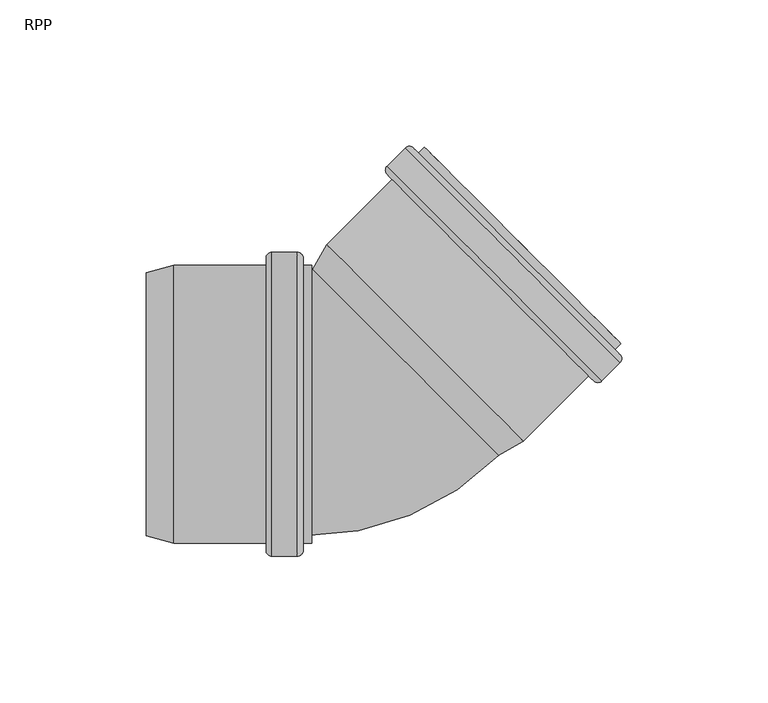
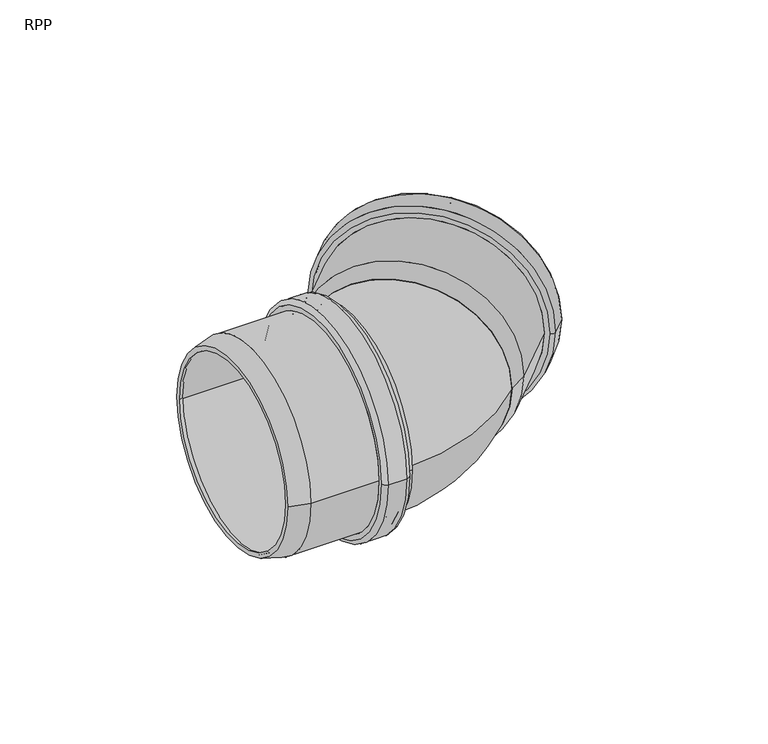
"""IFC4 building model written with IfcOpenShell, lengths in millimetres: pipe fitting geometry, RAUPIANO PLUS Bend : RPP."""

from ifc_helpers import new_model, si_unit, point, frame, origin, place, context, project, spatial, polyline, circle_curve, ellipse_curve, trimmed, source, transform, mapped, element, save
from ifc_brep_helpers import plane_surface, cylinder_surface, revolved_surface, advanced_brep


def rpp_5e2e64cf(model_context):
    return source(origin(), model_context, "Body", "AdvancedBrep", [
        advanced_brep(
        [(-31.1964646, -45.3, 0.0), (-31.1964646, 45.3, 0.0), (-64.676702, 45.3, 0.0), (-64.676702, -45.3, 0.0), (-30.6964646, -49.7, 0.0), (-30.6964646, 49.7, 0.0), (-31.1964646, 49.2, 0.0), (-31.1964646, -49.2, 0.0), (-23.3964646, -49.7, 0.0), (-23.3964646, 49.7, 0.0), (-22.8964646, -49.2, 0.0), (-22.8964646, 49.2, 0.0), (-17.7964646, -45.3, 0.0), (-17.7964646, 45.3, 0.0), (-22.8964646, 45.3, 0.0), (-22.8964646, -45.3, 0.0), (-20.6964646, -47.5, 0.0), (-20.6964646, 47.5, 0.0), (-17.7964646, 47.5, 0.0), (-17.7964646, -47.5, 0.0), (-22.6964646, -51.9, 0.0), (-22.6964646, 51.9, 0.0), (-20.6964646, 49.9, 0.0), (-20.6964646, -49.9, 0.0), (-31.3964646, -51.9, 0.0), (-31.3964646, 51.9, 0.0), (-33.3964646, -49.9, 0.0), (-33.3964646, 49.9, 0.0), (-64.9663375, -47.5, 0.0), (-64.9663375, 47.5, 0.0), (-33.3964646, 47.5, 0.0), (-33.3964646, -47.5, 0.0), (-74.2964646, -45.0, 0.0), (-74.2964646, 45.0, 0.0), (-74.2964646, 42.7223924, 0.0), (-74.2964646, -42.7223924, 0.0)],
        [
            (0, 1, circle_curve(frame((-31.1964646, 0.0, 0.0), z_axis=(1.0, 0.0, 0.0), x_axis=(0.0, 1.0, 0.0)), 45.3)),
            (1, 2),
            (2, 3, circle_curve(frame((-64.676702, 0.0, 0.0), z_axis=(-1.0, 0.0, 0.0), x_axis=(0.0, 1.0, 0.0)), 45.3)),
            (3, 0),
            (4, 5, circle_curve(frame((-30.6964646, 0.0, 0.0), z_axis=(1.0, 0.0, 0.0), x_axis=(0.0, 1.0, 0.0)), 49.7)),
            (5, 6, circle_curve(frame((-30.6964646, 49.2, 0.0), z_axis=(0.0, 0.0, 1.0), x_axis=(0.0, -1.0, 0.0)), 0.5)),
            (6, 7, circle_curve(frame((-31.1964646, 0.0, 0.0), z_axis=(-1.0, 0.0, 0.0), x_axis=(0.0, 1.0, 0.0)), 49.2)),
            (7, 4, circle_curve(frame((-30.6964646, -49.2, 0.0), z_axis=(0.0, 0.0, 1.0), x_axis=(0.0, 1.0, 0.0)), 0.5)),
            (8, 9, circle_curve(frame((-23.3964646, 0.0, 0.0), z_axis=(1.0, 0.0, 0.0), x_axis=(0.0, 1.0, 0.0)), 49.7)),
            (9, 5),
            (4, 8),
            (10, 11, circle_curve(frame((-22.8964646, 0.0, 0.0), z_axis=(1.0, 0.0, 0.0), x_axis=(0.0, 1.0, 0.0)), 49.2)),
            (11, 9, circle_curve(frame((-23.3964646, 49.2, 0.0), z_axis=(0.0, 0.0, 1.0), x_axis=(0.0, -1.0, 0.0)), 0.5)),
            (8, 10, circle_curve(frame((-23.3964646, -49.2, 0.0), z_axis=(0.0, 0.0, 1.0), x_axis=(0.0, 1.0, 0.0)), 0.5)),
            (12, 13, circle_curve(frame((-17.7964646, 0.0, 0.0), z_axis=(1.0, 0.0, 0.0), x_axis=(0.0, 1.0, 0.0)), 45.3)),
            (13, 14),
            (14, 15, circle_curve(frame((-22.8964646, 0.0, 0.0), z_axis=(-1.0, 0.0, 0.0), x_axis=(0.0, 1.0, 0.0)), 45.3)),
            (15, 12),
            (16, 17, circle_curve(frame((-20.6964646, 0.0, 0.0), z_axis=(1.0, 0.0, 0.0), x_axis=(0.0, 1.0, 0.0)), 47.5)),
            (17, 18),
            (18, 19, circle_curve(frame((-17.7964646, 0.0, 0.0), z_axis=(-1.0, 0.0, 0.0), x_axis=(0.0, 1.0, 0.0)), 47.5)),
            (19, 16),
            (20, 21, circle_curve(frame((-22.6964646, 0.0, 0.0), z_axis=(1.0, 0.0, 0.0), x_axis=(0.0, 1.0, 0.0)), 51.9)),
            (21, 22, circle_curve(frame((-22.6964646, 49.9, 0.0), z_axis=(0.0, 0.0, -1.0), x_axis=(0.0, -1.0, 0.0)), 2.0)),
            (22, 23, circle_curve(frame((-20.6964646, 0.0, 0.0), z_axis=(-1.0, 0.0, 0.0), x_axis=(0.0, 1.0, 0.0)), 49.9)),
            (23, 20, circle_curve(frame((-22.6964646, -49.9, 0.0), z_axis=(0.0, 0.0, -1.0), x_axis=(0.0, 1.0, 0.0)), 2.0)),
            (24, 25, circle_curve(frame((-31.3964646, 0.0, 0.0), z_axis=(1.0, 0.0, 0.0), x_axis=(0.0, 1.0, 0.0)), 51.9)),
            (25, 21),
            (20, 24),
            (26, 27, circle_curve(frame((-33.3964646, 0.0, 0.0), z_axis=(1.0, 0.0, 0.0), x_axis=(0.0, 1.0, 0.0)), 49.9)),
            (27, 25, circle_curve(frame((-31.3964646, 49.9, 0.0), z_axis=(0.0, 0.0, -1.0), x_axis=(0.0, -1.0, 0.0)), 2.0)),
            (24, 26, circle_curve(frame((-31.3964646, -49.9, 0.0), z_axis=(0.0, 0.0, -1.0), x_axis=(0.0, 1.0, 0.0)), 2.0)),
            (28, 29, circle_curve(frame((-64.9663375, 0.0, 0.0), z_axis=(1.0, 0.0, 0.0), x_axis=(0.0, 1.0, 0.0)), 47.5)),
            (29, 30),
            (30, 31, circle_curve(frame((-33.3964646, 0.0, 0.0), z_axis=(-1.0, 0.0, 0.0), x_axis=(0.0, 1.0, 0.0)), 47.5)),
            (31, 28),
            (32, 33, circle_curve(frame((-74.2964646, 0.0, 0.0), z_axis=(1.0, 0.0, 0.0), x_axis=(0.0, 1.0, 0.0)), 45.0)),
            (33, 29),
            (28, 32),
            (2, 34),
            (34, 35, circle_curve(frame((-74.2964646, 0.0, 0.0), z_axis=(-1.0, 0.0, 0.0), x_axis=(0.0, 1.0, 0.0)), 42.7223924)),
            (35, 3),
            (1, 0, circle_curve(frame((-31.1964646, 0.0, 0.0), z_axis=(1.0, 0.0, 0.0), x_axis=(0.0, -1.0, 0.0)), 45.3)),
            (3, 2, circle_curve(frame((-64.676702, 0.0, 0.0), z_axis=(-1.0, 0.0, 0.0), x_axis=(0.0, -1.0, 0.0)), 45.3)),
            (6, 7, circle_curve(frame((-31.1964646, 0.0, 0.0), z_axis=(1.0, 0.0, 0.0), x_axis=(0.0, -1.0, 0.0)), 49.2)),
            (5, 4, circle_curve(frame((-30.6964646, 0.0, 0.0), z_axis=(1.0, 0.0, 0.0), x_axis=(0.0, -1.0, 0.0)), 49.7)),
            (9, 8, circle_curve(frame((-23.3964646, 0.0, 0.0), z_axis=(1.0, 0.0, 0.0), x_axis=(0.0, -1.0, 0.0)), 49.7)),
            (11, 10, circle_curve(frame((-22.8964646, 0.0, 0.0), z_axis=(1.0, 0.0, 0.0), x_axis=(0.0, -1.0, 0.0)), 49.2)),
            (14, 15, circle_curve(frame((-22.8964646, 0.0, 0.0), z_axis=(1.0, 0.0, 0.0), x_axis=(0.0, -1.0, 0.0)), 45.3)),
            (13, 12, circle_curve(frame((-17.7964646, 0.0, 0.0), z_axis=(1.0, 0.0, 0.0), x_axis=(0.0, -1.0, 0.0)), 45.3)),
            (18, 19, circle_curve(frame((-17.7964646, 0.0, 0.0), z_axis=(1.0, 0.0, 0.0), x_axis=(0.0, -1.0, 0.0)), 47.5)),
            (17, 16, circle_curve(frame((-20.6964646, 0.0, 0.0), z_axis=(1.0, 0.0, 0.0), x_axis=(0.0, -1.0, 0.0)), 47.5)),
            (22, 23, circle_curve(frame((-20.6964646, 0.0, 0.0), z_axis=(1.0, 0.0, 0.0), x_axis=(0.0, -1.0, 0.0)), 49.9)),
            (21, 20, circle_curve(frame((-22.6964646, 0.0, 0.0), z_axis=(1.0, 0.0, 0.0), x_axis=(0.0, -1.0, 0.0)), 51.9)),
            (25, 24, circle_curve(frame((-31.3964646, 0.0, 0.0), z_axis=(1.0, 0.0, 0.0), x_axis=(0.0, -1.0, 0.0)), 51.9)),
            (27, 26, circle_curve(frame((-33.3964646, 0.0, 0.0), z_axis=(1.0, 0.0, 0.0), x_axis=(0.0, -1.0, 0.0)), 49.9)),
            (30, 31, circle_curve(frame((-33.3964646, 0.0, 0.0), z_axis=(1.0, 0.0, 0.0), x_axis=(0.0, -1.0, 0.0)), 47.5)),
            (29, 28, circle_curve(frame((-64.9663375, 0.0, 0.0), z_axis=(1.0, 0.0, 0.0), x_axis=(0.0, -1.0, 0.0)), 47.5)),
            (33, 32, circle_curve(frame((-74.2964646, 0.0, 0.0), z_axis=(1.0, 0.0, 0.0), x_axis=(0.0, -1.0, 0.0)), 45.0)),
            (34, 35, circle_curve(frame((-74.2964646, 0.0, 0.0), z_axis=(1.0, 0.0, 0.0), x_axis=(0.0, -1.0, 0.0)), 42.7223924)),
        ],
        [
            revolved_surface(polyline([(-64.676702, 45.3, 0.0), (-31.1964646, 45.3, 0.0)]), (-74.2964646, 0.0, 0.0), (-1.0, 0.0, 0.0)),
            revolved_surface(trimmed(ellipse_curve(frame((-30.6964646, 49.2, 0.0), z_axis=(0.0, 0.0, -1.0), x_axis=(0.0, -1.0, 0.0)), 0.5, 0.5), [point((-31.1964646, 49.2, 0.0))], [point((-30.6964646, 49.7, 0.0))], True, "CARTESIAN"), (-74.2964646, 0.0, 0.0), (-1.0, 0.0, 0.0)),
            revolved_surface(polyline([(-30.6964646, 49.7, 0.0), (-23.3964646, 49.7, 0.0)]), (-74.2964646, 0.0, 0.0), (-1.0, 0.0, 0.0)),
            revolved_surface(trimmed(ellipse_curve(frame((-23.3964646, 49.2, 0.0), z_axis=(0.0, 0.0, -1.0), x_axis=(0.0, -1.0, 0.0)), 0.5, 0.5), [point((-23.3964646, 49.7, 0.0))], [point((-22.8964646, 49.2, 0.0))], True, "CARTESIAN"), (-74.2964646, 0.0, 0.0), (-1.0, 0.0, 0.0)),
            revolved_surface(polyline([(-22.8964646, 45.3, 0.0), (-17.7964646, 45.3, 0.0)]), (-74.2964646, 0.0, 0.0), (-1.0, 0.0, 0.0)),
            cylinder_surface(frame((-74.2964646, 0.0, 0.0), z_axis=(-1.0, 0.0, 0.0), x_axis=(0.0, 1.0, 0.0)), 47.5),
            revolved_surface(trimmed(ellipse_curve(frame((-22.6964646, 49.9, 0.0), z_axis=(0.0, 0.0, 1.0), x_axis=(0.0, -1.0, 0.0)), 2.0, 2.0), [point((-20.6964646, 49.9, 0.0))], [point((-22.6964646, 51.9, 0.0))], True, "CARTESIAN"), (-74.2964646, 0.0, 0.0), (-1.0, 0.0, 0.0)),
            cylinder_surface(frame((-74.2964646, 0.0, 0.0), z_axis=(-1.0, 0.0, 0.0), x_axis=(0.0, 1.0, 0.0)), 51.9),
            revolved_surface(trimmed(ellipse_curve(frame((-31.3964646, 49.9, 0.0), z_axis=(0.0, 0.0, 1.0), x_axis=(0.0, -1.0, 0.0)), 2.0, 2.0), [point((-31.3964646, 51.9, 0.0))], [point((-33.3964646, 49.9, 0.0))], True, "CARTESIAN"), (-74.2964646, 0.0, 0.0), (-1.0, 0.0, 0.0)),
            revolved_surface(polyline([(-64.9663375, 47.5, 0.0), (-74.2964646, 45.0, 0.0)]), (-74.2964646, 0.0, 0.0), (-1.0, 0.0, 0.0)),
            revolved_surface(polyline([(-74.2964646, 42.7223924, 0.0), (-64.676702, 45.3, 0.0)]), (-74.2964646, 0.0, 0.0), (-1.0, 0.0, 0.0)),
            revolved_surface(polyline([(-64.676702, -45.3, 0.0), (-31.1964646, -45.3, 0.0)]), (-74.2964646, 0.0, 0.0), (-1.0, 0.0, 0.0)),
            plane_surface(frame((-31.1964646, 0.0, 0.0), z_axis=(1.0, 0.0, 0.0), x_axis=(0.0, -1.0, 0.0))),
            revolved_surface(trimmed(ellipse_curve(frame((-30.6964646, -49.2, 0.0), z_axis=(0.0, 0.0, 1.0), x_axis=(0.0, 1.0, 0.0)), 0.5, 0.5), [point((-31.1964646, -49.2, 0.0))], [point((-30.6964646, -49.7, 0.0))], True, "CARTESIAN"), (-74.2964646, 0.0, 0.0), (-1.0, 0.0, 0.0)),
            revolved_surface(polyline([(-30.6964646, -49.7, 0.0), (-23.3964646, -49.7, 0.0)]), (-74.2964646, 0.0, 0.0), (-1.0, 0.0, 0.0)),
            revolved_surface(trimmed(ellipse_curve(frame((-23.3964646, -49.2, 0.0), z_axis=(0.0, 0.0, 1.0), x_axis=(0.0, 1.0, 0.0)), 0.5, 0.5), [point((-23.3964646, -49.7, 0.0))], [point((-22.8964646, -49.2, 0.0))], True, "CARTESIAN"), (-74.2964646, 0.0, 0.0), (-1.0, 0.0, 0.0)),
            plane_surface(frame((-22.8964646, 0.0, 0.0), z_axis=(-1.0, 0.0, 0.0), x_axis=(0.0, -1.0, 0.0))),
            revolved_surface(polyline([(-22.8964646, -45.3, 0.0), (-17.7964646, -45.3, 0.0)]), (-74.2964646, 0.0, 0.0), (-1.0, 0.0, 0.0)),
            plane_surface(frame((-17.7964646, 0.0, 0.0), z_axis=(1.0, 0.0, 0.0), x_axis=(0.0, -1.0, 0.0))),
            cylinder_surface(frame((-74.2964646, 0.0, 0.0), z_axis=(-1.0, 0.0, 0.0), x_axis=(0.0, -1.0, 0.0)), 47.5),
            plane_surface(frame((-20.6964646, 0.0, 0.0), z_axis=(1.0, 0.0, 0.0), x_axis=(0.0, -1.0, 0.0))),
            revolved_surface(trimmed(ellipse_curve(frame((-22.6964646, -49.9, 0.0), z_axis=(0.0, 0.0, -1.0), x_axis=(0.0, 1.0, 0.0)), 2.0, 2.0), [point((-20.6964646, -49.9, 0.0))], [point((-22.6964646, -51.9, 0.0))], True, "CARTESIAN"), (-74.2964646, 0.0, 0.0), (-1.0, 0.0, 0.0)),
            cylinder_surface(frame((-74.2964646, 0.0, 0.0), z_axis=(-1.0, 0.0, 0.0), x_axis=(0.0, -1.0, 0.0)), 51.9),
            revolved_surface(trimmed(ellipse_curve(frame((-31.3964646, -49.9, 0.0), z_axis=(0.0, 0.0, -1.0), x_axis=(0.0, 1.0, 0.0)), 2.0, 2.0), [point((-31.3964646, -51.9, 0.0))], [point((-33.3964646, -49.9, 0.0))], True, "CARTESIAN"), (-74.2964646, 0.0, 0.0), (-1.0, 0.0, 0.0)),
            plane_surface(frame((-33.3964646, 0.0, 0.0), z_axis=(-1.0, 0.0, 0.0), x_axis=(0.0, -1.0, 0.0))),
            revolved_surface(polyline([(-64.9663375, -47.5, 0.0), (-74.2964646, -45.0, 0.0)]), (-74.2964646, 0.0, 0.0), (-1.0, 0.0, 0.0)),
            plane_surface(frame((-74.2964646, 0.0, 0.0), z_axis=(-1.0, 0.0, 0.0), x_axis=(0.0, -1.0, 0.0))),
            revolved_surface(polyline([(-74.2964646, -42.7223924, 0.0), (-64.676702, -45.3, 0.0)]), (-74.2964646, 0.0, 0.0), (-1.0, 0.0, 0.0)),
        ],
        [
            (0, [[1, 2, 3, 4]]),
            (1, [[5, 6, 7, 8]]),
            (2, [[9, 10, -5, 11]]),
            (3, [[12, 13, -9, 14]]),
            (4, [[15, 16, 17, 18]]),
            (5, [[19, 20, 21, 22]]),
            (6, [[23, 24, 25, 26]]),
            (7, [[27, 28, -23, 29]]),
            (8, [[30, 31, -27, 32]]),
            (5, [[33, 34, 35, 36]]),
            (9, [[37, 38, -33, 39]]),
            (10, [[-3, 40, 41, 42]]),
            (11, [[43, -4, 44, -2]]),
            (12, [[45, -7], [-43, -1]]),
            (13, [[46, -8, -45, -6]]),
            (14, [[47, -11, -46, -10]]),
            (15, [[48, -14, -47, -13]]),
            (16, [[-48, -12], [49, -17]]),
            (17, [[50, -18, -49, -16]]),
            (18, [[51, -21], [-50, -15]]),
            (19, [[52, -22, -51, -20]]),
            (20, [[53, -25], [-52, -19]]),
            (21, [[54, -26, -53, -24]]),
            (22, [[55, -29, -54, -28]]),
            (23, [[56, -32, -55, -31]]),
            (24, [[-56, -30], [57, -35]]),
            (19, [[58, -36, -57, -34]]),
            (25, [[59, -39, -58, -38]]),
            (26, [[-59, -37], [60, -41]]),
            (27, [[-44, -42, -60, -40]]),
        ],
    ),
        advanced_brep(
        [(44.5610611, -15.8575257, 0.0), (-15.8575257, 44.5610611, 0.0), (-10.8779702, 53.1859042, 0.0), (53.1859042, -10.8779702, 0.0), (54.5367359, -12.6384083, 0.0), (-12.6384083, 54.5367359, 0.0), (-17.4680374, 46.1715729, 0.0), (46.1715729, -17.4680374, 0.0), (76.8600072, 9.684863, 0.0), (9.684863, 76.8600072, 0.0), (87.5373196, 14.1396357, 0.0), (14.1396357, 87.5373196, 0.0), (7.9878067, 81.3854906, 0.0), (81.3854906, 7.9878067, 0.0), (87.890873, 20.7157288, 0.0), (20.7157288, 87.890873, 0.0), (18.6651191, 85.8402633, 0.0), (85.8402633, 18.6651191, 0.0), (82.7289935, 18.6651191, 0.0), (18.6651191, 82.7289935, 0.0), (22.2713637, 86.335238, 0.0), (86.335238, 22.2713637, 0.0), (80.3248304, 10.0384164, 0.0), (10.0384164, 80.3248304, 0.0), (15.2002959, 85.4867099, 0.0), (85.4867099, 15.2002959, 0.0), (12.7961328, 76.8600072, 0.0), (76.8600072, 12.7961328, 0.0), (7.9878067, 78.5570635, 0.0), (78.5570635, 7.9878067, 0.0), (87.5373196, 16.9680628, 0.0), (16.9680628, 87.5373196, 0.0), (15.9074026, 85.4867099, 0.0), (85.4867099, 15.9074026, 0.0), (79.6177236, 10.0384164, 0.0), (10.0384164, 79.6177236, 0.0)],
        [
            (0, 1, circle_curve(frame((14.3517677, 14.3517677, 0.0), z_axis=(-0.7071067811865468, -0.7071067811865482, 0.0), x_axis=(-0.7071067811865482, 0.7071067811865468, 0.0)), 42.7223924)),
            (1, 2),
            (2, 3, circle_curve(frame((21.153967, 21.153967, 0.0), z_axis=(0.7071067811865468, 0.7071067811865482, 0.0), x_axis=(-0.7071067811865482, 0.7071067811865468, 0.0)), 45.3)),
            (3, 0),
            (4, 5, circle_curve(frame((20.9491638, 20.9491638, 0.0), z_axis=(-0.7071067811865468, -0.7071067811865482, 0.0), x_axis=(-0.7071067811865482, 0.7071067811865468, 0.0)), 47.5)),
            (5, 6),
            (6, 7, circle_curve(frame((14.3517677, 14.3517677, 0.0), z_axis=(0.7071067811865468, 0.7071067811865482, 0.0), x_axis=(-0.7071067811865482, 0.7071067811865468, 0.0)), 45.0)),
            (7, 4),
            (8, 9, circle_curve(frame((43.2724351, 43.2724351, 0.0), z_axis=(-0.7071067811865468, -0.7071067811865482, 0.0), x_axis=(-0.7071067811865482, 0.7071067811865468, 0.0)), 47.5)),
            (9, 5),
            (4, 8),
            (10, 11, circle_curve(frame((50.8384776, 50.8384776, 0.0), z_axis=(-0.7071067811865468, -0.7071067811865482, 0.0), x_axis=(-0.7071067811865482, 0.7071067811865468, 0.0)), 51.9)),
            (11, 12),
            (12, 13, circle_curve(frame((44.6866486, 44.6866486, 0.0), z_axis=(0.7071067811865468, 0.7071067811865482, 0.0), x_axis=(-0.7071067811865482, 0.7071067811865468, 0.0)), 51.9)),
            (13, 10),
            (14, 15, circle_curve(frame((54.3033009, 54.3033009, 0.0), z_axis=(-0.7071067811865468, -0.7071067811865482, 0.0), x_axis=(-0.7071067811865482, 0.7071067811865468, 0.0)), 47.5)),
            (15, 16),
            (16, 17, circle_curve(frame((52.2526912, 52.2526912, 0.0), z_axis=(0.7071067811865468, 0.7071067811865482, 0.0), x_axis=(-0.7071067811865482, 0.7071067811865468, 0.0)), 47.5)),
            (17, 14),
            (18, 19, circle_curve(frame((50.6970563, 50.6970563, 0.0), z_axis=(-0.7071067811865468, -0.7071067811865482, 0.0), x_axis=(-0.7071067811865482, 0.7071067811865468, 0.0)), 45.3)),
            (19, 20),
            (20, 21, circle_curve(frame((54.3033009, 54.3033009, 0.0), z_axis=(0.7071067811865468, 0.7071067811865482, 0.0), x_axis=(-0.7071067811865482, 0.7071067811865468, 0.0)), 45.3)),
            (21, 18),
            (22, 23, circle_curve(frame((45.1816234, 45.1816234, 0.0), z_axis=(-0.7071067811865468, -0.7071067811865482, 0.0), x_axis=(-0.7071067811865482, 0.7071067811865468, 0.0)), 49.7)),
            (23, 24),
            (24, 25, circle_curve(frame((50.3435029, 50.3435029, 0.0), z_axis=(0.7071067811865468, 0.7071067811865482, 0.0), x_axis=(-0.7071067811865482, 0.7071067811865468, 0.0)), 49.7)),
            (25, 22),
            (2, 26),
            (26, 27, circle_curve(frame((44.82807, 44.82807, 0.0), z_axis=(0.7071067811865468, 0.7071067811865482, 0.0), x_axis=(-0.7071067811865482, 0.7071067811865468, 0.0)), 45.3)),
            (27, 3),
            (1, 0, circle_curve(frame((14.3517677, 14.3517677, 0.0), z_axis=(-0.7071067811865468, -0.7071067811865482, 0.0), x_axis=(0.7071067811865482, -0.7071067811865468, 0.0)), 42.7223924)),
            (3, 2, circle_curve(frame((21.153967, 21.153967, 0.0), z_axis=(0.7071067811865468, 0.7071067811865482, 0.0), x_axis=(0.7071067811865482, -0.7071067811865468, 0.0)), 45.3)),
            (6, 7, circle_curve(frame((14.3517677, 14.3517677, 0.0), z_axis=(-0.7071067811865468, -0.7071067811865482, 0.0), x_axis=(0.7071067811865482, -0.7071067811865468, 0.0)), 45.0)),
            (5, 4, circle_curve(frame((20.9491638, 20.9491638, 0.0), z_axis=(-0.7071067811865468, -0.7071067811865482, 0.0), x_axis=(0.7071067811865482, -0.7071067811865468, 0.0)), 47.5)),
            (9, 8, circle_curve(frame((43.2724351, 43.2724351, 0.0), z_axis=(-0.7071067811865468, -0.7071067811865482, 0.0), x_axis=(0.7071067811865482, -0.7071067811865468, 0.0)), 47.5)),
            (28, 29, circle_curve(frame((43.2724351, 43.2724351, 0.0), z_axis=(-0.7071067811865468, -0.7071067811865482, 0.0), x_axis=(0.7071067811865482, -0.7071067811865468, 0.0)), 49.9)),
            (29, 28, circle_curve(frame((43.2724351, 43.2724351, 0.0), z_axis=(-0.7071067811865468, -0.7071067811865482, 0.0), x_axis=(-0.7071067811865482, 0.7071067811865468, 0.0)), 49.9)),
            (11, 10, circle_curve(frame((50.8384776, 50.8384776, 0.0), z_axis=(-0.7071067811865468, -0.7071067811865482, 0.0), x_axis=(0.7071067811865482, -0.7071067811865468, 0.0)), 51.9)),
            (13, 12, circle_curve(frame((44.6866486, 44.6866486, 0.0), z_axis=(0.7071067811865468, 0.7071067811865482, 0.0), x_axis=(0.7071067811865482, -0.7071067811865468, 0.0)), 51.9)),
            (30, 31, circle_curve(frame((52.2526912, 52.2526912, 0.0), z_axis=(0.7071067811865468, 0.7071067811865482, 0.0), x_axis=(0.7071067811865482, -0.7071067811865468, 0.0)), 49.9)),
            (31, 30, circle_curve(frame((52.2526912, 52.2526912, 0.0), z_axis=(0.7071067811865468, 0.7071067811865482, 0.0), x_axis=(-0.7071067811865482, 0.7071067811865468, 0.0)), 49.9)),
            (16, 17, circle_curve(frame((52.2526912, 52.2526912, 0.0), z_axis=(-0.7071067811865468, -0.7071067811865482, 0.0), x_axis=(0.7071067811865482, -0.7071067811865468, 0.0)), 47.5)),
            (15, 14, circle_curve(frame((54.3033009, 54.3033009, 0.0), z_axis=(-0.7071067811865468, -0.7071067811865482, 0.0), x_axis=(0.7071067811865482, -0.7071067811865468, 0.0)), 47.5)),
            (20, 21, circle_curve(frame((54.3033009, 54.3033009, 0.0), z_axis=(-0.7071067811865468, -0.7071067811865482, 0.0), x_axis=(0.7071067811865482, -0.7071067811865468, 0.0)), 45.3)),
            (19, 18, circle_curve(frame((50.6970563, 50.6970563, 0.0), z_axis=(-0.7071067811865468, -0.7071067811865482, 0.0), x_axis=(0.7071067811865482, -0.7071067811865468, 0.0)), 45.3)),
            (32, 33, circle_curve(frame((50.6970563, 50.6970563, 0.0), z_axis=(-0.7071067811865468, -0.7071067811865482, 0.0), x_axis=(0.7071067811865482, -0.7071067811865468, 0.0)), 49.2)),
            (33, 32, circle_curve(frame((50.6970563, 50.6970563, 0.0), z_axis=(-0.7071067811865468, -0.7071067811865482, 0.0), x_axis=(-0.7071067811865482, 0.7071067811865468, 0.0)), 49.2)),
            (23, 22, circle_curve(frame((45.1816234, 45.1816234, 0.0), z_axis=(-0.7071067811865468, -0.7071067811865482, 0.0), x_axis=(0.7071067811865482, -0.7071067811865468, 0.0)), 49.7)),
            (25, 24, circle_curve(frame((50.3435029, 50.3435029, 0.0), z_axis=(0.7071067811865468, 0.7071067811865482, 0.0), x_axis=(0.7071067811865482, -0.7071067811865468, 0.0)), 49.7)),
            (34, 35, circle_curve(frame((44.82807, 44.82807, 0.0), z_axis=(0.7071067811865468, 0.7071067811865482, 0.0), x_axis=(0.7071067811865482, -0.7071067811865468, 0.0)), 49.2)),
            (35, 34, circle_curve(frame((44.82807, 44.82807, 0.0), z_axis=(0.7071067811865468, 0.7071067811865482, 0.0), x_axis=(-0.7071067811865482, 0.7071067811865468, 0.0)), 49.2)),
            (26, 27, circle_curve(frame((44.82807, 44.82807, 0.0), z_axis=(-0.7071067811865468, -0.7071067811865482, 0.0), x_axis=(0.7071067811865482, -0.7071067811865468, 0.0)), 45.3)),
            (12, 28, circle_curve(frame((9.4020203, 79.971277, 0.0), z_axis=(0.0, 0.0, 1.0), x_axis=(0.7071067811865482, -0.7071067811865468, 0.0)), 2.0)),
            (29, 13, circle_curve(frame((79.971277, 9.4020203, 0.0), z_axis=(0.0, 0.0, 1.0), x_axis=(-0.7071067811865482, 0.7071067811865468, 0.0)), 2.0)),
            (31, 11, circle_curve(frame((15.5538492, 86.123106, 0.0), z_axis=(0.0, 0.0, 1.0), x_axis=(0.7071067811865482, -0.7071067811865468, 0.0)), 2.0)),
            (10, 30, circle_curve(frame((86.123106, 15.5538492, 0.0), z_axis=(0.0, 0.0, 1.0), x_axis=(-0.7071067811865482, 0.7071067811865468, 0.0)), 2.0)),
            (24, 32, circle_curve(frame((15.5538492, 85.1331565, 0.0), z_axis=(0.0, 0.0, -1.0), x_axis=(0.7071067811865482, -0.7071067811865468, 0.0)), 0.5)),
            (33, 25, circle_curve(frame((85.1331565, 15.5538492, 0.0), z_axis=(0.0, 0.0, -1.0), x_axis=(-0.7071067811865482, 0.7071067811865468, 0.0)), 0.5)),
            (35, 23, circle_curve(frame((10.3919697, 79.971277, 0.0), z_axis=(0.0, 0.0, -1.0), x_axis=(0.7071067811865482, -0.7071067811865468, 0.0)), 0.5)),
            (22, 34, circle_curve(frame((79.971277, 10.3919697, 0.0), z_axis=(0.0, 0.0, -1.0), x_axis=(-0.7071067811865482, 0.7071067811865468, 0.0)), 0.5)),
        ],
        [
            revolved_surface(polyline([(-10.8779702, 53.1859042, 0.0), (-15.8575257, 44.5610611, 0.0)]), (14.3517677, 14.3517677, 0.0), (0.7071067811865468, 0.7071067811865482, 0.0)),
            revolved_surface(polyline([(-17.4680374, 46.1715729, 0.0), (-12.6384083, 54.5367359, 0.0)]), (14.3517677, 14.3517677, 0.0), (0.7071067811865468, 0.7071067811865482, 0.0)),
            cylinder_surface(frame((14.3517677, 14.3517677, 0.0), z_axis=(0.7071067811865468, 0.7071067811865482, 0.0), x_axis=(-0.7071067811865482, 0.7071067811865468, 0.0)), 47.5),
            cylinder_surface(frame((14.3517677, 14.3517677, 0.0), z_axis=(0.7071067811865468, 0.7071067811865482, 0.0), x_axis=(-0.7071067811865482, 0.7071067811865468, 0.0)), 51.9),
            revolved_surface(polyline([(22.27136371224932, 86.33523808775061, 0.0), (18.665119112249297, 82.72899348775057, 0.0)]), (14.3517677, 14.3517677, 0.0), (0.7071067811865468, 0.7071067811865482, 0.0)),
            revolved_surface(polyline([(15.20029587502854, 85.48670992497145, 0.0), (10.03841637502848, 80.32483042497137, 0.0)]), (14.3517677, 14.3517677, 0.0), (0.7071067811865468, 0.7071067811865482, 0.0)),
            revolved_surface(polyline([(12.796132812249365, 76.86000718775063, 0.0), (-10.877970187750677, 53.18590418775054, 0.0)]), (14.3517677, 14.3517677, 0.0), (0.7071067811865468, 0.7071067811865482, 0.0)),
            revolved_surface(polyline([(53.1859042, -10.8779702, 0.0), (44.5610611, -15.8575257, 0.0)]), (14.3517677, 14.3517677, 0.0), (0.7071067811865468, 0.7071067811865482, 0.0)),
            plane_surface(frame((14.3517677, 14.3517677, 0.0), z_axis=(-0.7071067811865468, -0.7071067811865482, 0.0), x_axis=(0.7071067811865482, -0.7071067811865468, 0.0))),
            revolved_surface(polyline([(46.1715729, -17.4680374, 0.0), (54.5367359, -12.6384083, 0.0)]), (14.3517677, 14.3517677, 0.0), (0.7071067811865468, 0.7071067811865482, 0.0)),
            cylinder_surface(frame((14.3517677, 14.3517677, 0.0), z_axis=(0.7071067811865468, 0.7071067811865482, 0.0), x_axis=(0.7071067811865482, -0.7071067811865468, 0.0)), 47.5),
            plane_surface(frame((43.2724351, 43.2724351, 0.0), z_axis=(-0.7071067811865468, -0.7071067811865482, 0.0), x_axis=(0.7071067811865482, -0.7071067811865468, 0.0))),
            cylinder_surface(frame((14.3517677, 14.3517677, 0.0), z_axis=(0.7071067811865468, 0.7071067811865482, 0.0), x_axis=(0.7071067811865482, -0.7071067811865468, 0.0)), 51.9),
            plane_surface(frame((52.2526912, 52.2526912, 0.0), z_axis=(0.7071067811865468, 0.7071067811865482, 0.0), x_axis=(0.7071067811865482, -0.7071067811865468, 0.0))),
            plane_surface(frame((54.3033009, 54.3033009, 0.0), z_axis=(0.7071067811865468, 0.7071067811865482, 0.0), x_axis=(0.7071067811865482, -0.7071067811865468, 0.0))),
            revolved_surface(polyline([(86.3352380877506, 22.271363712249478, 0.0), (82.72899348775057, 18.66511911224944, 0.0)]), (14.3517677, 14.3517677, 0.0), (0.7071067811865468, 0.7071067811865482, 0.0)),
            plane_surface(frame((50.6970563, 50.6970563, 0.0), z_axis=(-0.7071067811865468, -0.7071067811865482, 0.0), x_axis=(0.7071067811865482, -0.7071067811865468, 0.0))),
            revolved_surface(polyline([(85.48670992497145, 15.200295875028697, 0.0), (80.3248304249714, 10.038416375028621, 0.0)]), (14.3517677, 14.3517677, 0.0), (0.7071067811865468, 0.7071067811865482, 0.0)),
            plane_surface(frame((44.82807, 44.82807, 0.0), z_axis=(0.7071067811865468, 0.7071067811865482, 0.0), x_axis=(0.7071067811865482, -0.7071067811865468, 0.0))),
            revolved_surface(polyline([(76.86000718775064, 12.7961328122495, 0.0), (53.185904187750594, -10.877970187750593, 0.0)]), (14.3517677, 14.3517677, 0.0), (0.7071067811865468, 0.7071067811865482, 0.0)),
            revolved_surface(trimmed(ellipse_curve(frame((9.4020203, 79.971277, 0.0), z_axis=(0.0, 0.0, -1.0), x_axis=(0.7071067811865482, -0.7071067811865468, 0.0)), 2.0, 2.0), [point((7.9878067, 78.5570635, 0.0))], [point((7.9878067, 81.3854906, 0.0))], True, "CARTESIAN"), (14.3517677, 14.3517677, 0.0), (0.7071067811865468, 0.7071067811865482, 0.0)),
            revolved_surface(trimmed(ellipse_curve(frame((15.5538492, 86.123106, 0.0), z_axis=(0.0, 0.0, -1.0), x_axis=(0.7071067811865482, -0.7071067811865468, 0.0)), 2.0, 2.0), [point((14.1396357, 87.5373196, 0.0))], [point((16.9680628, 87.5373196, 0.0))], True, "CARTESIAN"), (14.3517677, 14.3517677, 0.0), (0.7071067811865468, 0.7071067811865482, 0.0)),
            revolved_surface(trimmed(ellipse_curve(frame((15.5538492, 85.1331565, 0.0), z_axis=(0.0, 0.0, 1.0), x_axis=(0.7071067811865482, -0.7071067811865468, 0.0)), 0.5, 0.5), [point((15.9074026, 85.4867099, 0.0))], [point((15.2002959, 85.4867099, 0.0))], True, "CARTESIAN"), (14.3517677, 14.3517677, 0.0), (0.7071067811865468, 0.7071067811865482, 0.0)),
            revolved_surface(trimmed(ellipse_curve(frame((10.3919697, 79.971277, 0.0), z_axis=(0.0, 0.0, 1.0), x_axis=(0.7071067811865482, -0.7071067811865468, 0.0)), 0.5, 0.5), [point((10.0384164, 80.3248304, 0.0))], [point((10.0384164, 79.6177236, 0.0))], True, "CARTESIAN"), (14.3517677, 14.3517677, 0.0), (0.7071067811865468, 0.7071067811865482, 0.0)),
            revolved_surface(trimmed(ellipse_curve(frame((79.971277, 9.4020203, 0.0), z_axis=(0.0, 0.0, 1.0), x_axis=(-0.7071067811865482, 0.7071067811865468, 0.0)), 2.0, 2.0), [point((78.5570635, 7.9878067, 0.0))], [point((81.3854906, 7.9878067, 0.0))], True, "CARTESIAN"), (14.3517677, 14.3517677, 0.0), (0.7071067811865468, 0.7071067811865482, 0.0)),
            revolved_surface(trimmed(ellipse_curve(frame((86.123106, 15.5538492, 0.0), z_axis=(0.0, 0.0, 1.0), x_axis=(-0.7071067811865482, 0.7071067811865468, 0.0)), 2.0, 2.0), [point((87.5373196, 14.1396357, 0.0))], [point((87.5373196, 16.9680628, 0.0))], True, "CARTESIAN"), (14.3517677, 14.3517677, 0.0), (0.7071067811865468, 0.7071067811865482, 0.0)),
            revolved_surface(trimmed(ellipse_curve(frame((85.1331565, 15.5538492, 0.0), z_axis=(0.0, 0.0, -1.0), x_axis=(-0.7071067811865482, 0.7071067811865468, 0.0)), 0.5, 0.5), [point((85.4867099, 15.9074026, 0.0))], [point((85.4867099, 15.2002959, 0.0))], True, "CARTESIAN"), (14.3517677, 14.3517677, 0.0), (0.7071067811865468, 0.7071067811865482, 0.0)),
            revolved_surface(trimmed(ellipse_curve(frame((79.971277, 10.3919697, 0.0), z_axis=(0.0, 0.0, -1.0), x_axis=(-0.7071067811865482, 0.7071067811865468, 0.0)), 0.5, 0.5), [point((80.3248304, 10.0384164, 0.0))], [point((79.6177236, 10.0384164, 0.0))], True, "CARTESIAN"), (14.3517677, 14.3517677, 0.0), (0.7071067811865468, 0.7071067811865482, 0.0)),
        ],
        [
            (0, [[1, 2, 3, 4]]),
            (1, [[5, 6, 7, 8]]),
            (2, [[9, 10, -5, 11]]),
            (3, [[12, 13, 14, 15]]),
            (2, [[16, 17, 18, 19]]),
            (4, [[20, 21, 22, 23]]),
            (5, [[24, 25, 26, 27]]),
            (6, [[-3, 28, 29, 30]]),
            (7, [[31, -4, 32, -2]]),
            (8, [[33, -7], [-31, -1]]),
            (9, [[34, -8, -33, -6]]),
            (10, [[35, -11, -34, -10]]),
            (11, [[36, 37], [-35, -9]]),
            (12, [[38, -15, 39, -13]]),
            (13, [[40, 41], [42, -18]]),
            (10, [[43, -19, -42, -17]]),
            (14, [[-43, -16], [44, -22]]),
            (15, [[45, -23, -44, -21]]),
            (16, [[46, 47], [-45, -20]]),
            (17, [[48, -27, 49, -25]]),
            (18, [[50, 51], [52, -29]]),
            (19, [[-32, -30, -52, -28]]),
            (20, [[-14, 53, -37, 54]]),
            (21, [[-41, 55, -12, 56]]),
            (22, [[-26, 57, -47, 58]]),
            (23, [[-51, 59, -24, 60]]),
            (24, [[-39, -54, -36, -53]]),
            (25, [[-40, -56, -38, -55]]),
            (26, [[-49, -58, -46, -57]]),
            (27, [[-50, -60, -48, -59]]),
        ],
    ),
        advanced_brep(
        [(-20.2964646, 42.8, 0.0), (-20.2964646, -42.8, 0.0), (-74.2964646, -42.8, 0.0), (-74.2964646, 42.8, 0.0), (-69.0715934, 45.0, 0.0), (-69.0715934, -45.0, 0.0), (-20.2964646, -45.0, 0.0), (-20.2964646, 45.0, 0.0), (-74.2964646, 43.6, 0.0), (-74.2964646, -43.6, 0.0)],
        [
            (0, 1, circle_curve(frame((-20.2964646, 0.0, 0.0), z_axis=(1.0, 0.0, 0.0), x_axis=(0.0, -1.0, 0.0)), 42.8)),
            (1, 2),
            (2, 3, circle_curve(frame((-74.2964646, 0.0, 0.0), z_axis=(-1.0, 0.0, 0.0), x_axis=(0.0, -1.0, 0.0)), 42.8)),
            (3, 0),
            (4, 5, circle_curve(frame((-69.0715934, 0.0, 0.0), z_axis=(1.0, 0.0, 0.0), x_axis=(0.0, -1.0, 0.0)), 45.0)),
            (5, 6),
            (6, 7, circle_curve(frame((-20.2964646, 0.0, 0.0), z_axis=(-1.0, 0.0, 0.0), x_axis=(0.0, -1.0, 0.0)), 45.0)),
            (7, 4),
            (8, 9, circle_curve(frame((-74.2964646, 0.0, 0.0), z_axis=(1.0, 0.0, 0.0), x_axis=(0.0, -1.0, 0.0)), 43.6)),
            (9, 5),
            (4, 8),
            (1, 0, circle_curve(frame((-20.2964646, 0.0, 0.0), z_axis=(1.0, 0.0, 0.0), x_axis=(0.0, 1.0, 0.0)), 42.8)),
            (3, 2, circle_curve(frame((-74.2964646, 0.0, 0.0), z_axis=(-1.0, 0.0, 0.0), x_axis=(0.0, 1.0, 0.0)), 42.8)),
            (6, 7, circle_curve(frame((-20.2964646, 0.0, 0.0), z_axis=(1.0, 0.0, 0.0), x_axis=(0.0, 1.0, 0.0)), 45.0)),
            (5, 4, circle_curve(frame((-69.0715934, 0.0, 0.0), z_axis=(1.0, 0.0, 0.0), x_axis=(0.0, 1.0, 0.0)), 45.0)),
            (9, 8, circle_curve(frame((-74.2964646, 0.0, 0.0), z_axis=(1.0, 0.0, 0.0), x_axis=(0.0, 1.0, 0.0)), 43.6)),
        ],
        [
            revolved_surface(polyline([(-74.2964646, -42.8, 0.0), (-20.2964646, -42.8, 0.0)]), (-20.2964646, 0.0, 0.0), (-1.0, 0.0, 0.0)),
            cylinder_surface(frame((-20.2964646, 0.0, 0.0), z_axis=(-1.0, 0.0, 0.0), x_axis=(0.0, -1.0, 0.0)), 45.0),
            revolved_surface(polyline([(-69.0715934, -45.0, 0.0), (-74.2964646, -43.6, 0.0)]), (-20.2964646, 0.0, 0.0), (-1.0, 0.0, 0.0)),
            revolved_surface(polyline([(-74.2964646, 42.8, 0.0), (-20.2964646, 42.8, 0.0)]), (-20.2964646, 0.0, 0.0), (-1.0, 0.0, 0.0)),
            plane_surface(frame((-20.2964646, 0.0, 0.0), z_axis=(1.0, 0.0, 0.0), x_axis=(0.0, 1.0, 0.0))),
            cylinder_surface(frame((-20.2964646, 0.0, 0.0), z_axis=(-1.0, 0.0, 0.0), x_axis=(0.0, 1.0, 0.0)), 45.0),
            revolved_surface(polyline([(-69.0715934, 45.0, 0.0), (-74.2964646, 43.6, 0.0)]), (-20.2964646, 0.0, 0.0), (-1.0, 0.0, 0.0)),
            plane_surface(frame((-74.2964646, 0.0, 0.0), z_axis=(-1.0, 0.0, 0.0), x_axis=(0.0, 1.0, 0.0))),
        ],
        [
            (0, [[1, 2, 3, 4]]),
            (1, [[5, 6, 7, 8]]),
            (2, [[9, 10, -5, 11]]),
            (3, [[12, -4, 13, -2]]),
            (4, [[14, -7], [-12, -1]]),
            (5, [[15, -8, -14, -6]]),
            (6, [[16, -11, -15, -10]]),
            (7, [[-16, -9], [-13, -3]]),
        ],
    ),
        advanced_brep(
        [(-20.2964646, -45.0, 0.0), (-20.2964646, 45.0, 0.0), (-20.2964646, -42.8, 0.0), (-20.2964646, 42.8, 0.0), (46.1715729, -17.4680374, 0.0), (-17.4680374, 46.1715729, 0.0), (44.615938, -15.9124025, 0.0), (-15.9124025, 44.615938, 0.0)],
        [
            (0, 1, circle_curve(frame((-20.2964646, 0.0, 0.0), z_axis=(-1.0, 0.0, 0.0), x_axis=(0.0, 1.0, 0.0)), 45.0)),
            (1, 0, circle_curve(frame((-20.2964646, 0.0, 0.0), z_axis=(-1.0, 0.0, 0.0), x_axis=(0.0, 1.0, 0.0)), 45.0)),
            (2, 3, circle_curve(frame((-20.2964646, 0.0, 0.0), z_axis=(1.0, 0.0, 0.0), x_axis=(0.0, 1.0, 0.0)), 42.8)),
            (3, 2, circle_curve(frame((-20.2964646, 0.0, 0.0), z_axis=(1.0, 0.0, 0.0), x_axis=(0.0, 1.0, 0.0)), 42.8)),
            (4, 5, circle_curve(frame((14.3517677, 14.3517677, 0.0), z_axis=(0.7071067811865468, 0.7071067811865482, 0.0), x_axis=(-0.7071067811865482, 0.7071067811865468, 0.0)), 45.0)),
            (5, 4, circle_curve(frame((14.3517677, 14.3517677, 0.0), z_axis=(0.7071067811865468, 0.7071067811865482, 0.0), x_axis=(-0.7071067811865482, 0.7071067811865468, 0.0)), 45.0)),
            (6, 7, circle_curve(frame((14.3517677, 14.3517677, 0.0), z_axis=(-0.7071067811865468, -0.7071067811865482, 0.0), x_axis=(-0.7071067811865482, 0.7071067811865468, 0.0)), 42.8)),
            (7, 6, circle_curve(frame((14.3517677, 14.3517677, 0.0), z_axis=(-0.7071067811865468, -0.7071067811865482, 0.0), x_axis=(-0.7071067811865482, 0.7071067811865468, 0.0)), 42.8)),
            (7, 3, circle_curve(frame((-20.2964646, 49.0, 0.0), z_axis=(0.0, 0.0, -1.0), x_axis=(0.0, -1.0, 0.0)), 6.2)),
            (2, 6, circle_curve(frame((-20.2964646, 49.0, 0.0), z_axis=(0.0, 0.0, 1.0), x_axis=(0.0, -1.0, 0.0)), 91.8)),
            (5, 1, circle_curve(frame((-20.2964646, 49.0, 0.0), z_axis=(0.0, 0.0, -1.0), x_axis=(0.0, -1.0, 0.0)), 4.0)),
            (0, 4, circle_curve(frame((-20.2964646, 49.0, 0.0), z_axis=(0.0, 0.0, 1.0), x_axis=(0.0, -1.0, 0.0)), 94.0)),
        ],
        [
            plane_surface(frame((-20.2964646, 0.0, 0.0), z_axis=(-1.0, 0.0, 0.0), x_axis=(0.0, 0.0, 1.0))),
            plane_surface(frame((14.3517677, 14.3517677, 0.0), z_axis=(0.7071067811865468, 0.7071067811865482, 0.0), x_axis=(0.0, 0.0, 1.0))),
            revolved_surface(trimmed(ellipse_curve(frame((-20.2964646, 0.0, 0.0), z_axis=(1.0, 0.0, 0.0), x_axis=(0.0, 1.0, 0.0)), 42.8, 42.8), [point((-20.2964646, -42.8, 0.0))], [point((-20.2964646, 42.8, 0.0))], True, "CARTESIAN"), (-20.2964646, 49.0, 0.0), (0.0, 0.0, 1.0)),
            revolved_surface(trimmed(ellipse_curve(frame((-20.2964646, 0.0, 0.0), z_axis=(1.0, 0.0, 0.0), x_axis=(0.0, 1.0, 0.0)), 42.8, 42.8), [point((-20.2964646, 42.8, 0.0))], [point((-20.2964646, -42.8, 0.0))], True, "CARTESIAN"), (-20.2964646, 49.0, 0.0), (0.0, 0.0, 1.0)),
            revolved_surface(trimmed(ellipse_curve(frame((-20.2964646, 0.0, 0.0), z_axis=(-1.0, 0.0, 0.0), x_axis=(0.0, 1.0, 0.0)), 45.0, 45.0), [point((-20.2964646, -45.0, 0.0))], [point((-20.2964646, 45.0, 0.0))], True, "CARTESIAN"), (-20.2964646, 49.0, 0.0), (0.0, 0.0, 1.0)),
            revolved_surface(trimmed(ellipse_curve(frame((-20.2964646, 0.0, 0.0), z_axis=(-1.0, 0.0, 0.0), x_axis=(0.0, 1.0, 0.0)), 45.0, 45.0), [point((-20.2964646, 45.0, 0.0))], [point((-20.2964646, -45.0, 0.0))], True, "CARTESIAN"), (-20.2964646, 49.0, 0.0), (0.0, 0.0, 1.0)),
        ],
        [
            (0, [[1, 2], [3, 4]]),
            (1, [[5, 6], [7, 8]]),
            (2, [[9, -3, 10, -8]]),
            (3, [[-10, -4, -9, -7]]),
            (4, [[11, -1, 12, -6]]),
            (5, [[-12, -2, -11, -5]]),
        ],
    ),
    ])


if __name__ == "__main__":
    model = new_model("IFC4")
    model_context = context("Model", 3, world=origin())
    ifc_project = project(units=[si_unit("LENGTHUNIT", "METRE", prefix="MILLI")], contexts=[model_context])
    site = spatial("IfcSite", under=ifc_project)
    building = spatial("IfcBuilding", under=site)
    placement = place(None, origin())
    rpp_shape = rpp_5e2e64cf(model_context)
    element("IfcPipeFitting", 1, ObjectType="RAUPIANO PLUS Bend : RPP", at=placement, inside=building, context=model_context, shape_type="MappedRepresentation", body=[
        mapped(rpp_shape, transform((0.0, 0.0, 0.0), x_axis=(1.0, 0.0, 0.0), y_axis=(0.0, 1.0, 0.0), z_axis=(0.0, 0.0, 1.0))),
    ])
    save(model, "model.ifc")
